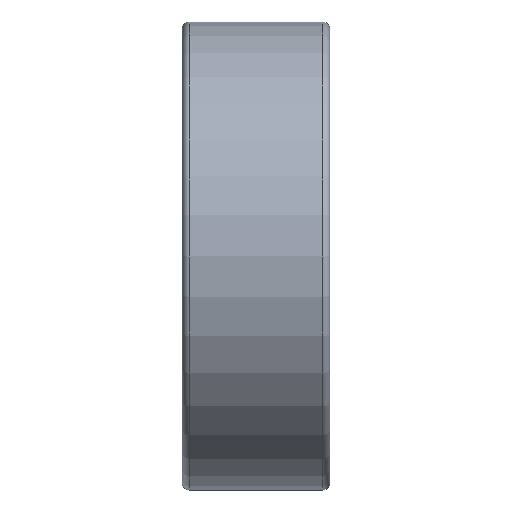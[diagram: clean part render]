
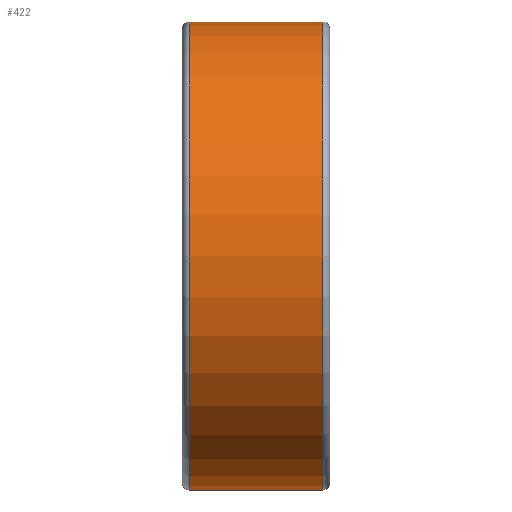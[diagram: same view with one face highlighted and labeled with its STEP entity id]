
A CAD part, front view. The second image highlights one B-rep face of the part: STEP entity #422.
In plain terms, the highlighted cylindrical face has radius 9.5 mm (diameter 19 mm), a full revolution.
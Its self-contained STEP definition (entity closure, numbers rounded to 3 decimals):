
#143=CYLINDRICAL_SURFACE('',#638,9.5);
#211=EDGE_LOOP('',(#291));
#212=EDGE_LOOP('',(#292));
#291=ORIENTED_EDGE('',*,*,#339,.F.);
#292=ORIENTED_EDGE('',*,*,#337,.T.);
#337=EDGE_CURVE('',#581,#581,#357,.T.);
#339=EDGE_CURVE('',#583,#583,#359,.T.);
#357=CIRCLE('',#634,9.5);
#359=CIRCLE('',#637,9.5);
#422=ADVANCED_FACE('',(#515,#516),#143,.T.);
#515=FACE_BOUND('',#211,.T.);
#516=FACE_BOUND('',#212,.T.);
#581=VERTEX_POINT('',#2018);
#583=VERTEX_POINT('',#2023);
#634=AXIS2_PLACEMENT_3D('',#2017,#738,#739);
#637=AXIS2_PLACEMENT_3D('',#2022,#744,#745);
#638=AXIS2_PLACEMENT_3D('',#2024,#746,#747);
#738=DIRECTION('',(1.,0.,0.));
#739=DIRECTION('',(0.,0.,-1.));
#744=DIRECTION('',(1.,0.,0.));
#745=DIRECTION('',(0.,0.,-1.));
#746=DIRECTION('',(1.,0.,0.));
#747=DIRECTION('',(0.,0.,-1.));
#2017=CARTESIAN_POINT('',(-2.7,0.,0.));
#2018=CARTESIAN_POINT('',(-2.7,0.,-9.5));
#2022=CARTESIAN_POINT('',(2.7,0.,0.));
#2023=CARTESIAN_POINT('',(2.7,0.,-9.5));
#2024=CARTESIAN_POINT('',(-2.7,0.,0.));
